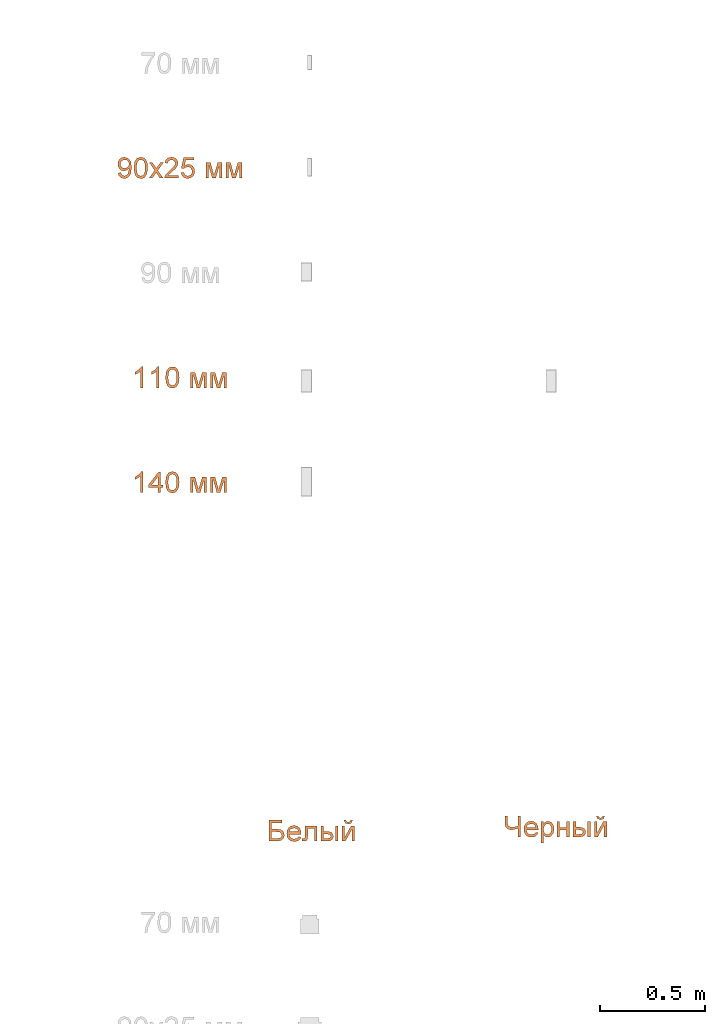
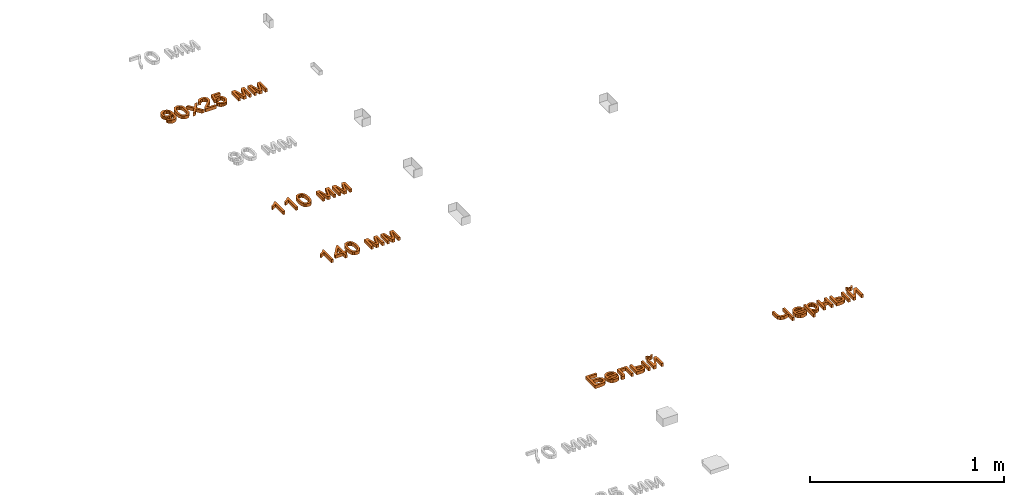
# One storey, part 37 of 87: 5 proxies.
"""IFC2X3 building model written with IfcOpenShell, lengths in millimetres."""

from ifc_helpers import new_model, entity, si_unit, converted_unit, derived_unit, direction, frame, frame_2d, origin, place, context, subcontext, project, spatial, polyline, rectangle, outline, extrude, element, save


model = new_model("IFC2X3")

# Units and contexts
model_context = context("Model", 3, precision=0.01, world=origin(), true_north=direction((6.12303176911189e-17, 1.0)))
body_context = subcontext(model_context, "Body", "Model", "MODEL_VIEW")
ifc_project = project(units=[si_unit("LENGTHUNIT", "METRE", prefix="MILLI"), si_unit("AREAUNIT", "SQUARE_METRE"), si_unit("VOLUMEUNIT", "CUBIC_METRE"), converted_unit("PLANEANGLEUNIT", "DEGREE", entity("IfcRatioMeasure", 0.0174532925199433), si_unit("PLANEANGLEUNIT", "RADIAN"), dimensions=[0, 0, 0, 0, 0, 0, 0]), si_unit("MASSUNIT", "GRAM", prefix="KILO"), derived_unit("MASSDENSITYUNIT", [(si_unit("MASSUNIT", "GRAM", prefix="KILO"), 1), (si_unit("LENGTHUNIT", "METRE"), -3)]), si_unit("TIMEUNIT", "SECOND"), si_unit("FREQUENCYUNIT", "HERTZ"), si_unit("THERMODYNAMICTEMPERATUREUNIT", "DEGREE_CELSIUS"), derived_unit("THERMALTRANSMITTANCEUNIT", [(si_unit("MASSUNIT", "GRAM", prefix="KILO"), 1), (si_unit("THERMODYNAMICTEMPERATUREUNIT", "KELVIN"), -1), (si_unit("TIMEUNIT", "SECOND"), -3)]), derived_unit("VOLUMETRICFLOWRATEUNIT", [(si_unit("LENGTHUNIT", "METRE"), 3), (si_unit("TIMEUNIT", "SECOND"), -1)]), si_unit("ELECTRICCURRENTUNIT", "AMPERE"), si_unit("ELECTRICVOLTAGEUNIT", "VOLT"), si_unit("POWERUNIT", "WATT"), si_unit("FORCEUNIT", "NEWTON", prefix="KILO"), si_unit("ILLUMINANCEUNIT", "LUX"), si_unit("LUMINOUSFLUXUNIT", "LUMEN"), si_unit("LUMINOUSINTENSITYUNIT", "CANDELA"), derived_unit("USERDEFINED", [(si_unit("MASSUNIT", "GRAM", prefix="KILO"), -1), (si_unit("LENGTHUNIT", "METRE"), -2), (si_unit("TIMEUNIT", "SECOND"), 3), (si_unit("LUMINOUSFLUXUNIT", "LUMEN"), 1)]), derived_unit("LINEARVELOCITYUNIT", [(si_unit("LENGTHUNIT", "METRE"), 1), (si_unit("TIMEUNIT", "SECOND"), -1)]), si_unit("PRESSUREUNIT", "PASCAL"), derived_unit("USERDEFINED", [(si_unit("LENGTHUNIT", "METRE"), -2), (si_unit("MASSUNIT", "GRAM", prefix="KILO"), 1), (si_unit("TIMEUNIT", "SECOND"), -2)])], contexts=[model_context])

# Site, building, storey
site_placement = place(None, origin())
site = spatial("IfcSite", under=ifc_project, at=site_placement, Name="Default", CompositionType="ELEMENT")
building_placement = place(site_placement, origin())
building = spatial("IfcBuilding", under=site, at=building_placement, Name="Наименование здания", CompositionType="ELEMENT")
storey_placement = place(building_placement, origin())
storey = spatial("IfcBuildingStorey", under=building, at=storey_placement, Name="Этаж 01", CompositionType="ELEMENT", Elevation=0.0)

# Proxies
proxy_1_placement = place(storey_placement, origin())
element("IfcBuildingElementProxy", 1, at=proxy_1_placement, inside=storey, Name="Текст модели:100 мм Arial", ObjectType="Текст модели:100 мм Arial", context=body_context, shape_type="SweptSolid", body=[
    extrude(outline(polyline([(5.58296908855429, -31.7859506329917), (17.2387167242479, -31.7859506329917), (26.9216142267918, -28.1739915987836), (34.2072820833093, -21.2554963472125), (38.6713407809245, -11.335887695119), (39.9245387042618, -0.903731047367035), (37.9450282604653, 8.92661895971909), (32.7793953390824, 17.8190246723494), (24.4742258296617, 25.437348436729), (-3.90517077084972, 37.365916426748), (-32.1440557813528, 40.5619140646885), (-49.7769073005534, 32.5319597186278), (-59.4683269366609, 16.6032994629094), (-60.449988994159, 4.02951589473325), (-56.4016296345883, -7.53444362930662), (-47.8362588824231, -16.8026666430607), (-35.2668867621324, -22.4892406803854), (-21.9841856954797, -23.8222776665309), (-10.3310965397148, -20.2832716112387), (-1.40106329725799, -12.8047998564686), (3.71247002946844, -2.31943974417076), (3.73902096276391, 11.9281903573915), (-2.85997612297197, 24.0883984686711), (-0.471643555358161, 23.5260231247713), (13.1334133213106, 18.0099957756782), (22.6158894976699, 11.2224941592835), (27.0079821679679, 2.91452909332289), (26.6924060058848, -7.52395807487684), (20.3410079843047, -16.8945474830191), (7.30988926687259, -19.2495752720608), (5.58296908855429, -31.7859506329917)]), holes=[polyline([(-21.7672208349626, 29.1433710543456), (-13.9803799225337, 25.5922442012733), (-8.91107638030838, 19.8291378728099), (-7.47464573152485, 4.45415101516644), (-10.9717321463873, -3.43916536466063), (-16.5473789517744, -8.7331221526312), (-23.57581367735, -11.1761402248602), (-31.4312638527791, -10.5166404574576), (-39.4119601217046, -6.85973803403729), (-44.9206699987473, -0.817312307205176), (-47.5297596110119, 6.8362474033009), (-46.8115950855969, 15.3265517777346), (-43.378182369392, 22.779928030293), (-37.7148363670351, 27.7965691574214), (-30.3387761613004, 30.0324064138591), (-21.7672208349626, 29.1433710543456)])]), frame((12120.666226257, -18027.7314518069, 0.0), z_axis=(0.0, 0.0, 1.0), x_axis=(0.258284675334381, -0.966068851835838, 0.0)), (0.0, 0.0, 1.0), 20.0),
    extrude(outline(polyline([(-7.02884310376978, -33.3490673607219), (17.5323805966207, -33.3490673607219), (35.1984171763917, -27.6137612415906), (43.343984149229, -18.4876517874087), (47.0516941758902, -5.75150665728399), (46.7162020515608, 4.48638208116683), (43.4465778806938, 13.0955287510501), (27.944430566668, 25.665911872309), (-0.314338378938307, 32.2325535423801), (-24.0296505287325, 32.3678288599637), (-39.4143020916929, 28.0260881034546), (-49.7293680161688, 18.9002174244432), (-54.4436715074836, 4.63998875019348), (-50.8676582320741, -14.1301059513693), (-35.4058547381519, -26.7333390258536), (-7.02884310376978, -33.3490673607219)]), holes=[polyline([(-5.77428774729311, -20.8548320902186), (-25.0157644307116, -17.3562860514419), (-36.7257089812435, -11.5717922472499), (-41.0962588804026, -4.77599682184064), (-41.9669219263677, 3.21464792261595), (-39.2244253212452, 11.2791292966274), (-32.8654063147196, 17.2229259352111), (-20.9698370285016, 20.2947501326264), (-1.61768958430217, 19.7433141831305), (17.8514140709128, 16.2707701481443), (28.7803640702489, 10.714159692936), (33.5546988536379, 3.61815959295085), (34.5599568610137, -4.47255337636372), (31.9421230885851, -12.1923199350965), (25.8471825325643, -18.1754808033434), (14.025067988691, -21.402747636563), (-5.77428774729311, -20.8548320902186)])]), frame((12200.6345749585, -18020.6257088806, 0.0), z_axis=(0.0, 0.0, 1.0), x_axis=(0.1018515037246, -0.994799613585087, 0.0)), (0.0, 0.0, 1.0), 20.0),
    extrude(outline(polyline([(-34.5302215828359, -38.4265006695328), (-19.4225343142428, -38.4265006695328), (-0.341721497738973, -12.0616243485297), (2.47870713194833, -16.1328517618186), (17.8561745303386, -38.4265006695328), (32.9638617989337, -38.4265006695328), (7.40832586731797, -1.34399555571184), (33.9448804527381, 35.3461020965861), (18.837193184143, 35.3461020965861), (4.95577923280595, 16.1671874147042), (0.0261604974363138, 9.3491077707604), (-5.6637476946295, 17.6877663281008), (-17.852904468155, 35.3461020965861), (-32.960591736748, 35.3461020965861), (-7.69936140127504, -1.34399555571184), (-34.5302215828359, -38.4265006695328)])), frame((12273.476231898, -18028.0223851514, 0.0)), (0.0, 0.0, 1.0), 20.0),
    extrude(outline(polyline([(-32.3858783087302, -45.1669477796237), (-32.3858783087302, -57.7239865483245), (33.5385752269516, -57.7239865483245), (32.1896745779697, -49.0664969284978), (24.5622545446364, -35.7369059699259), (8.84143061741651, -21.1810416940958), (-12.8390816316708, -0.260818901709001), (-18.2592096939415, 13.9639515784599), (-13.1456499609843, 25.4786580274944), (0.20846646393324, 30.1752848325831), (14.1266686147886, 25.5890226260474), (19.4119066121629, 12.9093565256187), (31.9689453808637, 14.4789863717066), (28.9247218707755, 26.6252235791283), (22.3426998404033, 35.4973110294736), (12.5662358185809, 40.9235704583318), (-0.0613136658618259, 42.7323236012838), (-12.7808336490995, 40.721235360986), (-22.5389035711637, 34.6879706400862), (-28.7469122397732, 25.6748617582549), (-30.8162484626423, 14.7242410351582), (-28.5844310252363, 2.81712712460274), (-21.1654774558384, -9.49465698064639), (-3.17604789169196, -26.6992716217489), (11.2694517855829, -38.7780637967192), (16.9348345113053, -45.1669477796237), (-32.3858783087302, -45.1669477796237)])), frame((12346.2571883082, -18008.7248992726, 0.0), z_axis=(0.0, 0.0, -1.0), x_axis=(-1.0, 0.0, 0.0)), (0.0, 0.0, -1.0), 20.0),
    extrude(outline(polyline([(3.81439562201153, -37.2548959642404), (15.7323946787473, -37.2548959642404), (26.1588137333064, -33.0579698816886), (34.2921694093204, -25.0537205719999), (39.3309783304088, -13.6317508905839), (40.2219288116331, 1.43409098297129), (34.3991305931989, 14.6815107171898), (25.5350217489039, 23.1481891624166), (13.9054384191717, 28.2770976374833), (0.912111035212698, 29.4702838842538), (-10.7159258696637, 25.776860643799), (-19.7427074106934, 18.0989984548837), (-24.9322687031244, 7.33886785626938), (-25.5937300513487, -2.2112479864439), (-22.6370240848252, -12.279338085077), (-47.9924930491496, 0.0204883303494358), (-38.0977082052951, 37.2324069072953), (-50.2330599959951, 40.4592412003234), (-62.7370428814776, -6.56524698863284), (-15.5021967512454, -30.4943712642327), (-10.7584434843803, -18.7623737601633), (-14.42162982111, -10.4922324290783), (-13.6981616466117, 0.722667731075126), (-9.98738154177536, 9.3572756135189), (-4.32553373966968, 14.6878856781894), (11.4370636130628, 15.9400687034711), (19.7481682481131, 12.2772427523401), (25.4355726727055, 6.40632241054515), (28.0665145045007, -1.27212018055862), (27.2082313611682, -10.3575128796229), (19.6530635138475, -21.9256319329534), (5.52431094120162, -24.716189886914), (3.81439562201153, -37.2548959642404)])), frame((12426.2237167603, -18026.5053317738, 0.0), z_axis=(0.0, 0.0, 1.0), x_axis=(0.256974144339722, -0.966418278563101, 0.0)), (0.0, 0.0, 1.0), 20.0),
    extrude(outline(polyline([(-40.5839870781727, -38.4502715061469), (33.1886156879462, -38.4502715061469), (33.1886156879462, -25.893232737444), (-29.0570178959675, -25.893232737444), (33.1886156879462, -8.62730443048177), (33.1886156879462, 7.85380895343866), (-26.2120637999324, 25.904552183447), (33.1886156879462, 25.904552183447), (33.1886156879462, 38.4615909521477), (-40.5839870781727, 38.4615909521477), (-40.5839870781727, 17.762097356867), (18.4733358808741, -0.190544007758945), (-40.5839870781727, -16.8433356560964), (-40.5839870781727, -38.4502715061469)])), frame((12548.9422451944, -18033.260270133, 0.0), z_axis=(0.0, 0.0, 1.0), x_axis=(0.0, -1.0, 0.0)), (0.0, 0.0, 1.0), 20.0),
    extrude(outline(polyline([(-40.5839870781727, -38.4502715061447), (33.1886156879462, -38.4502715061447), (33.1886156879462, -25.893232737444), (-29.0570178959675, -25.893232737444), (33.1886156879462, -8.6273044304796), (33.1886156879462, 7.85380895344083), (-26.2120637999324, 25.9045521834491), (33.1886156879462, 25.9045521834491), (33.1886156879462, 38.4615909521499), (-40.5839870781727, 38.4615909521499), (-40.5839870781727, 17.7620973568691), (18.4733358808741, -0.190544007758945), (-40.5839870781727, -16.8433356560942), (-40.5839870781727, -38.4502715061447)])), frame((12644.6896658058, -18033.260270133, 0.0), z_axis=(0.0, 0.0, 1.0), x_axis=(0.0, -1.0, 0.0)), (0.0, 0.0, 1.0), 20.0),
])
proxy_2_placement = place(storey_placement, origin())
element("IfcBuildingElementProxy", 2, at=proxy_2_placement, inside=storey, Name="Текст модели:100 мм Arial", ObjectType="Текст модели:100 мм Arial", context=body_context, shape_type="SweptSolid", body=[
    extrude(outline(polyline([(-63.8793021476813, -16.918484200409), (36.577008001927, -16.918484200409), (36.577008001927, -8.825080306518), (23.2106288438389, 2.34626961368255), (11.4629304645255, 20.7526321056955), (-0.407395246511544, 20.7526321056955), (5.93243780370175, 7.53340574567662), (14.4059864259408, -4.36144543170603), (-63.8793021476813, -4.36144543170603), (-63.8793021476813, -16.918484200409)])), frame((12193.7741888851, -19002.5695836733, 0.0), z_axis=(0.0, 0.0, 1.0), x_axis=(0.0, 1.0, 0.0)), (0.0, 0.0, 1.0), 20.0),
    extrude(outline(polyline([(-63.8793021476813, -16.9184842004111), (36.577008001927, -16.9184842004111), (36.577008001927, -8.82508030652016), (23.2106288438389, 2.34626961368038), (11.4629304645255, 20.7526321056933), (-0.407395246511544, 20.7526321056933), (5.93243780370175, 7.53340574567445), (14.4059864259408, -4.3614454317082), (-63.8793021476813, -4.3614454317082), (-63.8793021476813, -16.9184842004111)])), frame((12270.6860513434, -19002.5695836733, 0.0), z_axis=(0.0, 0.0, 1.0), x_axis=(0.0, 1.0, 0.0)), (0.0, 0.0, 1.0), 20.0),
    extrude(outline(polyline([(-7.02884310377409, -33.3490673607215), (17.5323805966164, -33.3490673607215), (35.1984171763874, -27.6137612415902), (43.3439841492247, -18.4876517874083), (47.0516941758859, -5.75150665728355), (46.7162020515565, 4.48638208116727), (43.4465778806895, 13.0955287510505), (27.9444305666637, 25.6659118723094), (-0.314338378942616, 32.2325535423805), (-24.0296505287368, 32.3678288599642), (-39.4143020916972, 28.0260881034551), (-49.7293680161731, 18.9002174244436), (-54.4436715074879, 4.63998875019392), (-50.8676582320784, -14.1301059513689), (-35.4058547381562, -26.7333390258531), (-7.02884310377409, -33.3490673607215)]), holes=[polyline([(-5.77428774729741, -20.8548320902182), (-25.0157644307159, -17.3562860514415), (-36.7257089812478, -11.5717922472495), (-41.0962588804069, -4.7759968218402), (-41.966921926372, 3.21464792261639), (-39.2244253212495, 11.2791292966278), (-32.8654063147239, 17.2229259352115), (-20.969837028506, 20.2947501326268), (-1.61768958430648, 19.7433141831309), (17.8514140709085, 16.2707701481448), (28.7803640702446, 10.7141596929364), (33.5546988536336, 3.61815959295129), (34.5599568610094, -4.47255337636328), (31.9421230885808, -12.1923199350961), (25.84718253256, -18.1754808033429), (14.0250679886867, -21.4027476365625), (-5.77428774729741, -20.8548320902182)])]), frame((12351.3190401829, -19020.6257088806, 0.0), z_axis=(0.0, 0.0, 1.0), x_axis=(0.1018515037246, -0.994799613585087, 0.0)), (0.0, 0.0, 1.0), 20.0),
    extrude(outline(polyline([(-40.5839870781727, -38.4502715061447), (33.1886156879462, -38.4502715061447), (33.1886156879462, -25.893232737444), (-29.0570178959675, -25.893232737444), (33.1886156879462, -8.6273044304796), (33.1886156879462, 7.85380895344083), (-26.2120637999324, 25.9045521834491), (33.1886156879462, 25.9045521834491), (33.1886156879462, 38.4615909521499), (-40.5839870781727, 38.4615909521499), (-40.5839870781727, 17.7620973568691), (18.4733358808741, -0.190544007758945), (-40.5839870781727, -16.8433356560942), (-40.5839870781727, -38.4502715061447)])), frame((12475.1696424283, -19033.260270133, 0.0), z_axis=(0.0, 0.0, 1.0), x_axis=(0.0, -1.0, 0.0)), (0.0, 0.0, 1.0), 20.0),
    extrude(outline(polyline([(-40.5839870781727, -38.4502715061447), (33.1886156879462, -38.4502715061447), (33.1886156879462, -25.893232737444), (-29.0570178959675, -25.893232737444), (33.1886156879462, -8.6273044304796), (33.1886156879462, 7.85380895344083), (-26.2120637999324, 25.9045521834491), (33.1886156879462, 25.9045521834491), (33.1886156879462, 38.4615909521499), (-40.5839870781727, 38.4615909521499), (-40.5839870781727, 17.7620973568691), (18.4733358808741, -0.190544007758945), (-40.5839870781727, -16.8433356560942), (-40.5839870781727, -38.4502715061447)])), frame((12570.9170630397, -19033.260270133, 0.0), z_axis=(0.0, 0.0, 1.0), x_axis=(0.0, -1.0, 0.0)), (0.0, 0.0, 1.0), 20.0),
])
proxy_3_placement = place(storey_placement, origin())
element("IfcBuildingElementProxy", 3, at=proxy_3_placement, inside=storey, Name="Текст модели:100 мм Arial", ObjectType="Текст модели:100 мм Arial", context=body_context, shape_type="SweptSolid", body=[
    extrude(outline(polyline([(-63.8793021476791, -16.918484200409), (36.5770080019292, -16.918484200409), (36.5770080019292, -8.825080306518), (23.2106288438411, 2.34626961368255), (11.4629304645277, 20.7526321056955), (-0.407395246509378, 20.7526321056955), (5.93243780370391, 7.53340574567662), (14.405986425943, -4.36144543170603), (-63.8793021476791, -4.36144543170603), (-63.8793021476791, -16.918484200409)])), frame((12193.7741888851, -19502.5695836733, 0.0), z_axis=(0.0, 0.0, 1.0), x_axis=(0.0, 1.0, 0.0)), (0.0, 0.0, 1.0), 20.0),
    extrude(outline(polyline([(-1.14154897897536, -36.3868737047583), (11.4154897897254, -36.3868737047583), (11.4154897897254, -12.8424260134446), (23.9725285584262, -12.8424260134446), (23.9725285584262, -0.285387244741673), (11.4154897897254, -0.285387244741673), (11.4154897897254, 62.4998065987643), (1.99771071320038, 62.4998065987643), (-46.660814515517, -0.285387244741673), (-46.660814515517, -12.8424260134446), (-1.14154897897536, -12.8424260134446), (-1.14154897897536, -36.3868737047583)]), holes=[polyline([(-1.14154897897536, -0.285387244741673), (-31.2097707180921, -0.285387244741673), (-1.14154897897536, 38.5139005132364), (-1.14154897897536, -0.285387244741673)])]), frame((12282.4675651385, -19530.0620121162, 0.0)), (0.0, 0.0, 1.0), 20.0),
    extrude(outline(polyline([(-7.02884310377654, -33.3490673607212), (17.5323805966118, -33.3490673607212), (35.198417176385, -27.6137612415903), (43.3439841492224, -18.4876517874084), (47.0516941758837, -5.75150665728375), (46.7162020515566, 4.48638208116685), (43.4465778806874, 13.0955287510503), (27.9444305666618, 25.6659118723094), (-0.314338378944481, 32.2325535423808), (-24.0296505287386, 32.3678288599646), (-39.4143020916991, 28.0260881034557), (-49.7293680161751, 18.9002174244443), (-54.44367150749, 4.63998875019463), (-50.8676582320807, -14.1301059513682), (-35.4058547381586, -26.7333390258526), (-7.02884310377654, -33.3490673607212)]), holes=[polyline([(-5.77428774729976, -20.8548320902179), (-25.0157644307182, -17.356286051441), (-36.7257089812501, -11.5717922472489), (-41.0962588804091, -4.77599682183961), (-41.9669219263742, 3.21464792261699), (-39.2244253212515, 11.2791292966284), (-32.8654063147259, 17.222925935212), (-20.9698370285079, 20.2947501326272), (-1.61768958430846, 19.7433141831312), (17.8514140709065, 16.2707701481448), (28.7803640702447, 10.7141596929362), (33.5546988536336, 3.61815959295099), (34.5599568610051, -4.47255337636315), (31.9421230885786, -12.1923199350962), (25.8471825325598, -18.1754808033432), (14.0250679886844, -21.4027476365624), (-5.77428774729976, -20.8548320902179)])]), frame((12351.3190401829, -19520.6257088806, 0.0), z_axis=(0.0, 0.0, 1.0), x_axis=(0.101851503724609, -0.994799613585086, 0.0)), (0.0, 0.0, 1.0), 20.0),
    extrude(outline(polyline([(-40.5839870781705, -38.4502715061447), (33.1886156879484, -38.4502715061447), (33.1886156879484, -25.893232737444), (-29.0570178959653, -25.893232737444), (33.1886156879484, -8.6273044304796), (33.1886156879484, 7.85380895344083), (-26.2120637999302, 25.9045521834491), (33.1886156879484, 25.9045521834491), (33.1886156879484, 38.4615909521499), (-40.5839870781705, 38.4615909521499), (-40.5839870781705, 17.7620973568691), (18.4733358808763, -0.190544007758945), (-40.5839870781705, -16.8433356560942), (-40.5839870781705, -38.4502715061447)])), frame((12475.1696424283, -19533.260270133, 0.0), z_axis=(0.0, 0.0, 1.0), x_axis=(0.0, -1.0, 0.0)), (0.0, 0.0, 1.0), 20.0),
    extrude(outline(polyline([(-40.5839870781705, -38.4502715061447), (33.1886156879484, -38.4502715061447), (33.1886156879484, -25.893232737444), (-29.0570178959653, -25.893232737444), (33.1886156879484, -8.6273044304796), (33.1886156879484, 7.85380895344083), (-26.2120637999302, 25.9045521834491), (33.1886156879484, 25.9045521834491), (33.1886156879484, 38.4615909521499), (-40.5839870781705, 38.4615909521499), (-40.5839870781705, 17.7620973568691), (18.4733358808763, -0.190544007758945), (-40.5839870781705, -16.8433356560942), (-40.5839870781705, -38.4502715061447)])), frame((12570.9170630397, -19533.260270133, 0.0), z_axis=(0.0, 0.0, 1.0), x_axis=(0.0, -1.0, 0.0)), (0.0, 0.0, 1.0), 20.0),
])
proxy_4_placement = place(storey_placement, origin())
element("IfcBuildingElementProxy", 4, at=proxy_4_placement, inside=storey, Name="Текст модели:100 мм Arial", ObjectType="Текст модели:100 мм Arial", context=body_context, shape_type="SweptSolid", body=[
    extrude(outline(polyline([(-50.995047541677, -42.7620371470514), (49.4612626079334, -42.7620371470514), (49.4612626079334, -4.42873324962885), (45.2428823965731, 17.8649156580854), (34.3658380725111, 27.7118903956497), (20.0552284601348, 31.0105656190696), (3.57411507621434, 26.3752524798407), (-6.06439319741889, 14.0389429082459), (-8.61504169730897, -6.68507615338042), (-8.61504169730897, -30.2049983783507), (-38.4380087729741, -30.2049983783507), (-38.4380087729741, 20.0231566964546), (-50.995047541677, 20.0231566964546), (-50.995047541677, -42.7620371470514)]), holes=[polyline([(36.9042238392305, -30.2049983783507), (3.94199707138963, -30.2049983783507), (3.94199707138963, -12.2523570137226), (5.2418467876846, 6.66904027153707), (10.4902965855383, 15.3387926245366), (20.325008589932, 18.4535268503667), (27.5784152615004, 17.0923634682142), (32.759420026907, 13.0088733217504), (36.9042238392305, -3.30056179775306), (36.9042238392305, -30.2049983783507)])]), frame((12853.8285451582, -21180.5776271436, 0.0), z_axis=(0.0, 0.0, 1.0), x_axis=(0.0, -1.0, 0.0)), (0.0, 0.0, 1.0), 20.0),
    extrude(outline(polyline([(-8.10128238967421, -20.3751729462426), (-15.5352214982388, -30.3140016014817), (-5.78400372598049, -33.5775071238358), (4.12185089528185, -33.3132173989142), (13.8776168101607, -29.4480778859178), (23.1785684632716, -21.9090340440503), (31.6380426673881, -9.59237957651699), (34.1620486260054, 3.74135328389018), (30.6040508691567, 17.2442201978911), (20.8175139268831, 30.0682768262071), (7.27698270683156, 39.7846728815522), (-6.6617952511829, 43.1117813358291), (-19.9642596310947, 40.4221234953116), (-31.595850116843, 32.088220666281), (-39.2435519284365, 20.5090048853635), (-41.3106827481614, 7.34319797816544), (-37.4373707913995, -6.34962495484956), (-27.2637442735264, -19.5098888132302), (-24.7804584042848, -21.8106804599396), (14.4643272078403, 18.7422646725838), (19.7071986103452, 10.643799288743), (21.1614672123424, 2.21005051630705), (19.1472085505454, -5.98136753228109), (13.9844981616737, -13.3528407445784), (3.53684605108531, -20.3751729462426), (-8.10128238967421, -20.3751729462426)]), holes=[polyline([(5.44081225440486, 27.4746984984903), (-25.1227061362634, -4.10760383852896), (-29.8038819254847, 7.41909510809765), (-27.8851342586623, 15.7498710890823), (-22.538224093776, 23.3910349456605), (-8.40970331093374, 31.2368652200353), (-1.08072680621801, 30.9147288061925), (5.44081225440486, 27.4746984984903)])]), frame((12931.9105930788, -21199.7163389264, 0.0), z_axis=(0.0, 0.0, -1.0), x_axis=(-0.695421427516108, -0.71860214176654, 0.0)), (0.0, 0.0, -1.0), 20.0),
    extrude(outline(polyline([(-49.3689973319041, 12.544776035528), (-49.3689973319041, -43.9618984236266), (24.3300290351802, -43.9618984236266), (24.3300290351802, -31.4048596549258), (-36.8119585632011, -31.4048596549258), (-36.8119585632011, -0.0122627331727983), (-1.61791435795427, -0.0122627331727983), (14.6179443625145, 0.833865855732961), (21.4728122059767, 5.48144172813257), (24.403605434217, 16.4688506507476), (23.7659433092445, 26.6714446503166), (11.8465666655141, 26.6714446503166), (11.8465666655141, 21.0551128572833), (11.0740144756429, 15.3774673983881), (8.62146784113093, 13.1088617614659), (-2.32915288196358, 12.544776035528), (-49.3689973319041, 12.544776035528)])), frame((12996.2705671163, -21205.6352843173, 0.0), z_axis=(0.0, 0.0, -1.0), x_axis=(0.0, -1.0, 0.0)), (0.0, 0.0, -1.0), 20.0),
    extrude(outline(polyline([(-42.3988715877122, -34.5139341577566), (31.3737311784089, -34.5139341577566), (31.3737311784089, -3.73447389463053), (29.653882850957, 9.31613988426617), (24.4943378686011, 18.2526066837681), (16.9129030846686, 23.4121516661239), (7.92738535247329, 25.1319999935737), (-1.9410491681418, 23.0810578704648), (-9.42438208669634, 16.9282315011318), (-14.1424686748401, 6.98622058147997), (-15.7151642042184, -6.43227519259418), (-15.7151642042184, -21.9568953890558), (-42.3988715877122, -21.9568953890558), (-42.3988715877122, -34.5139341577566)]), holes=[polyline([(18.816692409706, -21.9568953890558), (-3.15812543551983, -21.9568953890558), (-3.15812543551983, -7.41329384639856), (0.226388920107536, 8.88387853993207), (7.95191081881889, 12.5749612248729), (16.1802047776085, 7.59629155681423), (18.816692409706, -9.05650009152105), (18.816692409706, -21.9568953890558)])]), frame((13093.5819578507, -21198.6651585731, 0.0), z_axis=(0.0, 0.0, 1.0), x_axis=(0.0, -1.0, 0.0)), (0.0, 0.0, 1.0), 20.0),
    extrude(outline(polyline([(-11.1429830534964, -6.65049913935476), (-15.3141401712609, -15.0941956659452), (-0.0922190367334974, -15.8161107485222), (10.2631635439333, -5.84547547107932), (12.4162171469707, 9.4217244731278), (2.76087400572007, 21.4951559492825), (-1.41028311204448, 13.0514594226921), (3.36929976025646, 6.75127419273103), (2.31913688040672, -0.66283387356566), (-3.16906596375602, -6.65049913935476), (-11.1429830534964, -6.65049913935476)])), frame((13189.4368188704, -21136.6275198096, 0.0), z_axis=(0.0, 0.0, -1.0), x_axis=(-0.442902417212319, -0.896569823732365, 0.0)), (0.0, 0.0, -1.0), 20.0),
    extrude(outline(polyline([(-36.9206370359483, -29.8425874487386), (36.8519657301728, -29.8425874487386), (36.8519657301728, -13.4105249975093), (-19.0660975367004, 17.2463079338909), (36.8519657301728, 17.2463079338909), (36.8519657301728, 29.8033467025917), (-36.9206370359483, 29.8033467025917), (-36.9206370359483, 13.5674879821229), (19.340782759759, -17.2855486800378), (-36.9206370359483, -17.2855486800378), (-36.9206370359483, -29.8425874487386)])), frame((13189.3669212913, -21193.1869240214, 0.0), z_axis=(0.0, 0.0, 1.0), x_axis=(0.0, -1.0, 0.0)), (0.0, 0.0, 1.0), 20.0),
    extrude(rectangle(XDim=73.7726027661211, YDim=12.5570387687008, at=frame_2d((-2.16715534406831e-12, 1.08268949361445e-12), x_axis=(1.0, 0.0))), frame((13134.4102563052, -21193.1525883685, 0.0), z_axis=(0.0, 0.0, 1.0), x_axis=(0.0, -1.0, 0.0)), (0.0, 0.0, 1.0), 20.0),
])
proxy_5_placement = place(storey_placement, origin())
element("IfcBuildingElementProxy", 5, at=proxy_5_placement, inside=storey, Name="Текст модели:100 мм Arial", ObjectType="Текст модели:100 мм Arial", context=body_context, shape_type="SweptSolid", body=[
    extrude(outline(polyline([(-57.0521744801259, -41.5683661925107), (43.4041356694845, -41.5683661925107), (43.4041356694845, -29.0113274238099), (-5.30344049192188, -29.0113274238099), (-11.5329089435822, 0.689012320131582), (-6.37029827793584, 15.1835629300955), (1.59741260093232, 19.7085114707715), (15.1753239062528, 21.2168276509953), (43.4041356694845, 21.2168276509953), (43.4041356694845, 33.7738664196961), (13.483066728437, 33.7738664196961), (-6.51745107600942, 31.0883278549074), (-19.1235407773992, 20.4442754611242), (-24.0899477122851, 2.08696390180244), (-16.8304096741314, -29.0113274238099), (-57.0521744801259, -29.0113274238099), (-57.0521744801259, -41.5683661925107)])), frame((13970.0647556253, -21152.4886663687, 0.0), z_axis=(0.0, 0.0, 1.0), x_axis=(0.0, 1.0, 0.0)), (0.0, 0.0, 1.0), 20.0),
    extrude(outline(polyline([(-8.10128238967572, -20.3751729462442), (-15.5352214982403, -30.3140016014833), (-5.784003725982, -33.5775071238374), (4.12185089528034, -33.3132173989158), (13.8776168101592, -29.4480778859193), (23.1785684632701, -21.9090340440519), (31.6380426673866, -9.59237957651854), (34.1620486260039, 3.74135328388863), (30.6040508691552, 17.2442201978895), (20.8175139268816, 30.0682768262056), (7.27698270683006, 39.7846728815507), (-6.66179525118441, 43.1117813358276), (-19.9642596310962, 40.42212349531), (-31.5958501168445, 32.0882206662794), (-39.2435519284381, 20.5090048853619), (-41.3106827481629, 7.34319797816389), (-37.437370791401, -6.34962495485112), (-27.2637442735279, -19.5098888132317), (-24.7804584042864, -21.8106804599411), (14.4643272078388, 18.7422646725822), (19.7071986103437, 10.6437992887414), (21.1614672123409, 2.2100505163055), (19.1472085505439, -5.98136753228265), (13.9844981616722, -13.3528407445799), (3.5368460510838, -20.3751729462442), (-8.10128238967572, -20.3751729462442)]), holes=[polyline([(5.44081225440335, 27.4746984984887), (-25.1227061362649, -4.10760383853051), (-29.8038819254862, 7.4190951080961), (-27.8851342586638, 15.7498710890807), (-22.5382240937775, 23.3910349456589), (-8.40970331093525, 31.2368652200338), (-1.08072680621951, 30.9147288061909), (5.44081225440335, 27.4746984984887)])]), frame((14063.4134936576, -21179.2182900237, 0.0), z_axis=(0.0, 0.0, -1.0), x_axis=(-0.695421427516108, -0.71860214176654, 0.0)), (0.0, 0.0, -1.0), 20.0),
    extrude(outline(polyline([(-28.8983569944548, -61.2335493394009), (-16.3413182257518, -61.2335493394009), (-16.3413182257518, -23.1700255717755), (-8.38280439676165, -31.3247431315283), (2.54329085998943, -34.5498419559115), (18.4235303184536, -29.7305878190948), (29.9259740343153, -15.8736993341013), (33.8868368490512, 4.47017499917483), (30.3796951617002, 23.8207679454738), (19.9808974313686, 37.5059781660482), (4.0638697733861, 42.3620205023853), (-7.65930313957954, 38.8916670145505), (-16.3413182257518, 28.4806065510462), (-16.3413182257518, 40.7923906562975), (-28.8983569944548, 40.7923906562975), (-28.8983569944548, -61.2335493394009)]), holes=[polyline([(-16.3413182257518, 3.31747808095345), (-14.8912500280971, 14.7064915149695), (-10.541045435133, 23.023690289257), (-4.30851130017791, 28.1096588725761), (2.78854552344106, 29.8049817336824), (9.85801119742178, 28.2108264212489), (15.8606190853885, 23.4283604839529), (19.9625033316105, 15.4453211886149), (21.3297980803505, 4.24944580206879), (19.9287808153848, -7.4308075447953), (15.7257290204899, -15.5916564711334), (9.56063991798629, -20.3925165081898), (2.2735107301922, -21.9928031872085), (-4.8971224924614, -20.4476988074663), (-10.9089274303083, -15.8123856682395), (-14.983220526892, -7.93971097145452), (-16.3413182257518, 3.31747808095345)])]), frame((14137.8485292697, -21176.560628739, 0.0)), (0.0, 0.0, 1.0), 20.0),
    extrude(outline(polyline([(-36.1014864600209, -29.0381521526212), (37.6711163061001, -29.0381521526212), (37.6711163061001, -16.4811133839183), (4.70888953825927, -16.4811133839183), (4.70888953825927, 16.4811133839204), (37.6711163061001, 16.4811133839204), (37.6711163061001, 29.0381521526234), (-36.1014864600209, 29.0381521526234), (-36.1014864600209, 16.4811133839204), (-7.84814923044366, 16.4811133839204), (-7.84814923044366, -16.4811133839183), (-36.1014864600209, -16.4811133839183), (-36.1014864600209, -29.0381521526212)])), frame((14214.9001868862, -21171.8697245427, 0.0), z_axis=(0.0, 0.0, 1.0), x_axis=(0.0, -1.0, 0.0)), (0.0, 0.0, 1.0), 20.0),
    extrude(outline(polyline([(-42.3988715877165, -34.5139341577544), (31.3737311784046, -34.5139341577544), (31.3737311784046, -3.73447389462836), (29.6538828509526, 9.31613988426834), (24.4943378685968, 18.2526066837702), (16.9129030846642, 23.4121516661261), (7.92738535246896, 25.131999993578), (-1.94104916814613, 23.081057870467), (-9.42438208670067, 16.928231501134), (-14.1424686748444, 6.98622058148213), (-15.7151642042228, -6.43227519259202), (-15.7151642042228, -21.9568953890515), (-42.3988715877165, -21.9568953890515), (-42.3988715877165, -34.5139341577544)]), holes=[polyline([(18.8166924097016, -21.9568953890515), (-3.15812543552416, -21.9568953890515), (-3.15812543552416, -7.41329384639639), (0.226388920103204, 8.8838785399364), (7.95191081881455, 12.5749612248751), (16.1802047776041, 7.5962915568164), (18.8166924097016, -9.05650009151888), (18.8166924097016, -21.9568953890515)])]), frame((14297.2878313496, -21178.1671096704, 0.0), z_axis=(0.0, 0.0, 1.0), x_axis=(0.0, -1.0, 0.0)), (0.0, 0.0, 1.0), 20.0),
    extrude(outline(polyline([(-11.1429830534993, -6.6504991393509), (-15.3141401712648, -15.0941956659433), (-0.0922190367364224, -15.8161107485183), (10.2631635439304, -5.84547547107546), (12.4162171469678, 9.42172447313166), (2.76087400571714, 21.4951559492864), (-1.41028311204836, 13.051459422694), (3.36929976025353, 6.75127419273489), (2.31913688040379, -0.6628338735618), (-3.16906596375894, -6.6504991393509), (-11.1429830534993, -6.6504991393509)])), frame((14393.1426923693, -21116.1294709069, 0.0), z_axis=(0.0, 0.0, -1.0), x_axis=(-0.442902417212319, -0.896569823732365, 0.0)), (0.0, 0.0, -1.0), 20.0),
    extrude(outline(polyline([(-36.9206370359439, -29.8425874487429), (36.8519657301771, -29.8425874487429), (36.8519657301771, -13.4105249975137), (-19.0660975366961, 17.2463079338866), (36.8519657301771, 17.2463079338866), (36.8519657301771, 29.8033467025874), (-36.9206370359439, 29.8033467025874), (-36.9206370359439, 13.5674879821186), (19.3407827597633, -17.2855486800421), (-36.9206370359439, -17.2855486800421), (-36.9206370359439, -29.8425874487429)])), frame((14393.0727947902, -21172.6888751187, 0.0), z_axis=(0.0, 0.0, 1.0), x_axis=(0.0, -1.0, 0.0)), (0.0, 0.0, 1.0), 20.0),
    extrude(rectangle(XDim=73.7726027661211, YDim=12.5570387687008, at=frame_2d((-2.16715534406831e-12, 1.08268949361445e-12), x_axis=(1.0, 0.0))), frame((14338.1161298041, -21172.6545394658, 0.0), z_axis=(0.0, 0.0, 1.0), x_axis=(0.0, -1.0, 0.0)), (0.0, 0.0, 1.0), 20.0),
])

save(model, "model.ifc")
